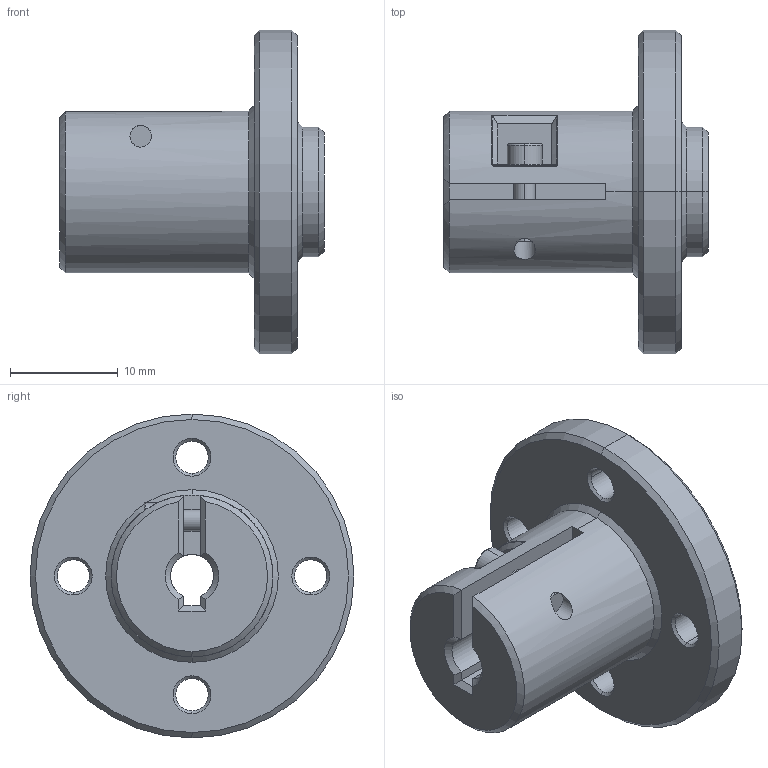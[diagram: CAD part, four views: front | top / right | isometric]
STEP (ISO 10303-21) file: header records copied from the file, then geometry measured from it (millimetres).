
FILE_DESCRIPTION (( 'STEP AP214' ), '1' );
FILE_NAME ('Hub STEP FILE.STEP', '2026-01-22T04:31:53', ( '' ), ( '' ), 'SwSTEP 2.0', 'SolidWorks 2022', '' );
FILE_SCHEMA (( 'AUTOMOTIVE_DESIGN' ));
Length unit declared in the file: millimetre
Products named in the file (1): Hub STEP FILE
Bounding box: 24.5 x 30 x 30 mm (x, y, z)
Volume: 5643.2 mm3; surface area: 3209.4 mm2
Topology: 1 solids, 1 shells, 110 faces, 258 edges, 155 vertices
Faces by surface type: cylinder 38, cone 33, plane 29, torus 6, bspline 4
Entity records: 3424 total; most frequent: CARTESIAN_POINT 824, DIRECTION 531, ORIENTED_EDGE 516, EDGE_CURVE 258, AXIS2_PLACEMENT_3D 209, VERTEX_POINT 155, EDGE_LOOP 127, VECTOR 113
